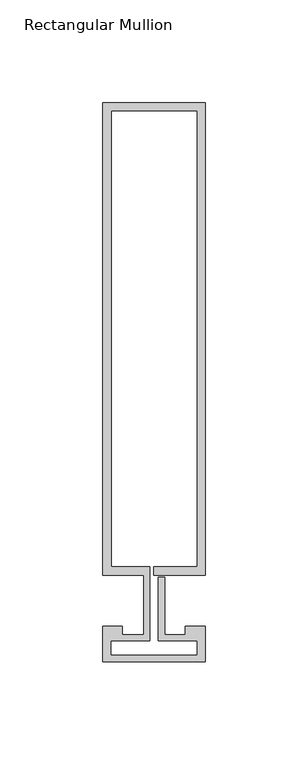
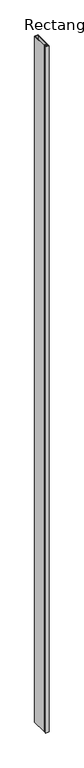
"""IFC4 building model written with IfcOpenShell, lengths in millimetres: member geometry, Rectangular Mullion : Reynaers_CW-50_Mullion-Transom_Vertical_230.5mm_Facecap-02B."""

from ifc_helpers import new_model, si_unit, frame, origin, place, context, project, spatial, polyline, outline, extrude, source, transform, mapped, element, save


def rectangular_mullion_db6ba1d2(model_context):
    return source(origin(), model_context, "Body", "SweptSolid", [
        extrude(outline(polyline([(-24.8004059, 243.0), (25.1995941, 243.0), (25.1995941, 12.5), (0.0, 12.5), (0.0, 16.5), (21.1995941, 16.5), (21.1995941, 239.0), (-20.8004059, 239.0), (-20.8004059, 16.5), (-1.9004059, 16.5), (-1.9004059, -19.5), (-20.994845, -19.5), (-20.994845, -26.7191338), (21.1995941, -26.7191338), (21.1995941, -19.5), (2.2995941, -19.5), (2.2995941, 11.5), (5.2995941, 11.5), (5.2995941, -16.5), (15.2996495, -16.5), (15.2996495, -12.5), (25.1995941, -12.5), (25.1995941, -29.8), (-24.994845, -29.8), (-24.994845, -12.5), (-15.2996495, -12.5), (-15.2996495, -16.5), (-4.9004059, -16.5), (-4.9004059, 12.5), (-24.8004059, 12.5), (-24.8004059, 243.0)])), frame((0.0, 0.0, -10400.0), z_axis=(0.0, 0.0, 1.0), x_axis=(1.0, 0.0, 0.0)), (0.0, 0.0, 1.0), 10400.0),
    ])


if __name__ == "__main__":
    model = new_model("IFC4")
    model_context = context("Model", 3, world=origin())
    ifc_project = project(units=[si_unit("LENGTHUNIT", "METRE", prefix="MILLI")], contexts=[model_context])
    site = spatial("IfcSite", under=ifc_project)
    building = spatial("IfcBuilding", under=site)
    placement = place(None, origin())
    rectangular_mullion_shape = rectangular_mullion_db6ba1d2(model_context)
    element("IfcMember", 1, ObjectType="Rectangular Mullion : Reynaers_CW-50_Mullion-Transom_Vertical_230.5mm_Facecap-02B", at=placement, inside=building, context=model_context, shape_type="MappedRepresentation", body=[
        mapped(rectangular_mullion_shape, transform((0.0, 0.0, 0.0), x_axis=(1.0, 0.0, 0.0), y_axis=(0.0, 1.0, 0.0), z_axis=(0.0, 0.0, 1.0))),
    ])
    save(model, "model.ifc")
